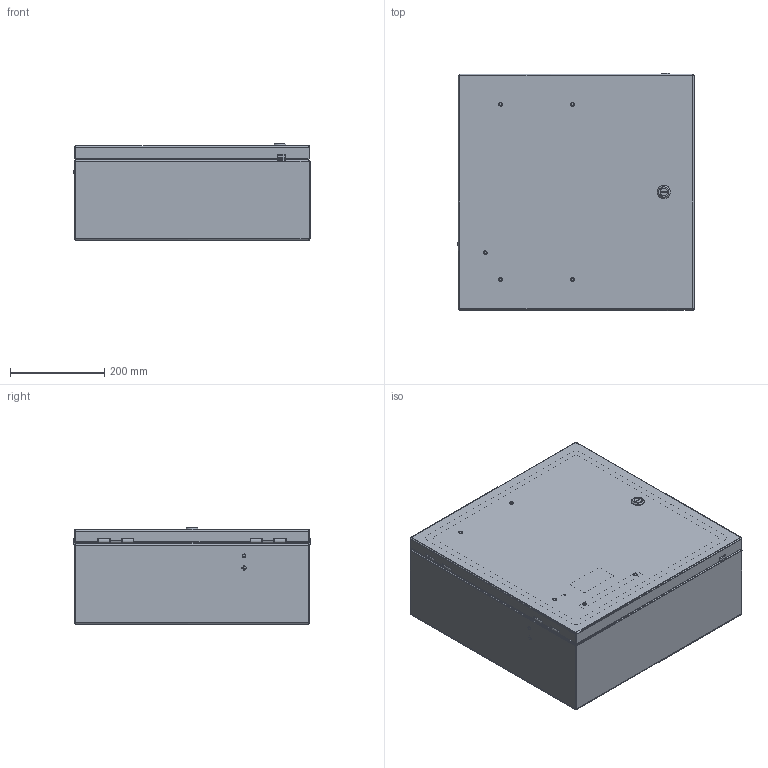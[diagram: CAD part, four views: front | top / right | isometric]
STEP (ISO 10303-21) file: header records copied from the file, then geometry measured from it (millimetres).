
FILE_DESCRIPTION (( 'STEP AP203' ), '1' );
FILE_NAME ('ecl505020.STEP', '2013-09-06T17:47:10', ( 'User' ), ( 'Pentair Inc' ), 'SwSTEP 2.0', 'SolidWorks 2010', '' );
FILE_SCHEMA (( 'CONFIG_CONTROL_DESIGN' ));
Length unit declared in the file: inch
Products named in the file (35): ecl505020; 89051910; 89052991; 87554441; 87554978_PEM HFHS-M6-15 ---N; 87554969; 89051742; 89051719; 87554454; 87554979_87554979; 99411940_99411940; 89051702; 64138001; 87780048; 87554966_OPEN; 87960059_Default 14 ga; 87956873; 87956874; 31122001_31122001; 99407583; 87956867; 99405181; 87956872; 87956875; 99411089; 99411839_99411839; 87554494; 87793415_87793415; 87550792_87550792; 87550790_87550790; 87550851; 89051038; 99415969_99415969; 99417109_PEM CLS-M5-2 ---N; 87550791_87550791
Assembly tree (51 placements, depth 5):
  ecl505020
    87550791_87550791  x2
    87550790_87550790  x2
    87550851  x2
      99417109_PEM CLS-M5-2 ---N
      99415969_99415969
      89051038
    87550792_87550792  x2
    89051910
      87554969  x4
      89052991
        87554441
        99411940_99411940
        87554978_PEM HFHS-M6-15 ---N  x4
    89051742
      89051702
      64138001  x2
      87780048
      87554966_OPEN
        99411089
        99407583
          87956875
          87956872
          99405181
          87956867
        87960059_Default 14 ga
          87956874
          31122001_31122001
          87956873
      99411839_99411839  x2
      89051719
        87554979_87554979  x4
        87554454
        99411940_99411940
      87554494
    87793415_87793415
Bounding box: 500.73 x 504.06 x 204.36 mm (x, y, z)
Volume: 2212636.8 mm3; surface area: 2128832.9 mm2
Topology: 46 solids, 46 shells, 2877 faces, 7507 edges, 4814 vertices
Faces by surface type: plane 1690, cylinder 752, cone 277, bspline 82, torus 60, sphere 16
Entity records: 57320 total; most frequent: CARTESIAN_POINT 15475, ORIENTED_EDGE 7932, DIRECTION 7696, EDGE_CURVE 3966, AXIS2_PLACEMENT_3D 2648, VERTEX_POINT 2510, LINE 2400, VECTOR 2400
